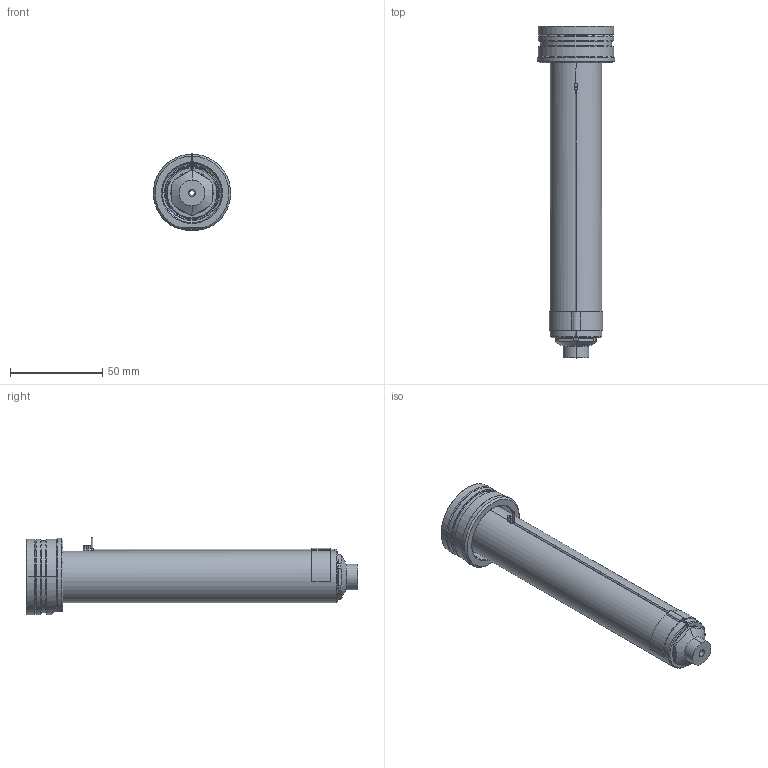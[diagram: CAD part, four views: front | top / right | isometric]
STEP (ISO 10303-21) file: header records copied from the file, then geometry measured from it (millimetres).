
FILE_DESCRIPTION((''),'2;1');
FILE_NAME('EO10_VG-ST_STD_160_SW','2024-02-19T12:47:01',('sundharh'),(''),'CREO PARAMETRIC BY PTC INC, 2023154','CREO PARAMETRIC BY PTC INC, 2023154','');
FILE_SCHEMA(('CONFIG_CONTROL_DESIGN'));
Length unit declared in the file: millimetre
Products named in the file (1): EO10_VG-ST_STD_160_SW
Bounding box: 41.85 x 180 x 42.02 mm (x, y, z)
Volume: 104947.6 mm3; surface area: 27623.8 mm2
Topology: 1 solids, 1 shells, 164 faces, 414 edges, 256 vertices
Faces by surface type: cylinder 63, plane 44, cone 33, torus 17, bspline 5, sphere 2
Entity records: 5673 total; most frequent: CARTESIAN_POINT 1641, DIRECTION 887, ORIENTED_EDGE 820, EDGE_CURVE 410, AXIS2_PLACEMENT_3D 366, VERTEX_POINT 256, CIRCLE 207, EDGE_LOOP 178
